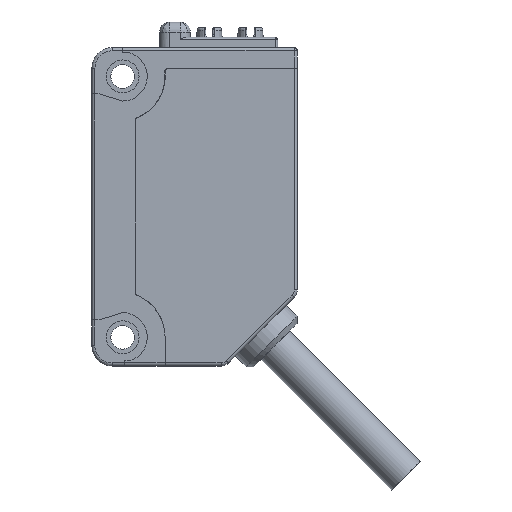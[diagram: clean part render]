
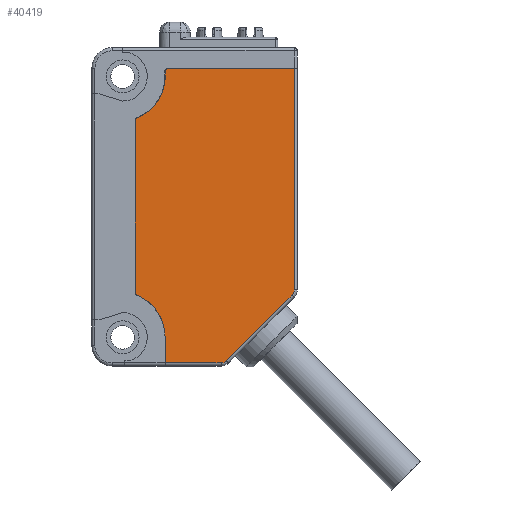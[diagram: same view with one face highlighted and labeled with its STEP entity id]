
A CAD part, left-side view. The second image highlights one B-rep face of the part: STEP entity #40419.
In plain terms, the highlighted planar face has unit normal (-1, 0, 0).
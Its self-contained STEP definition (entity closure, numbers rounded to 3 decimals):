
#299 = CARTESIAN_POINT ( 'NONE',  ( -5.5, 0.3, -7.574 ) ) ;
#1396 = CARTESIAN_POINT ( 'NONE',  ( -5.5, 0.3, -7.386 ) ) ;
#1420 = CARTESIAN_POINT ( 'NONE',  ( -5.5, 0.3, 14.163 ) ) ;
#1460 = ORIENTED_EDGE ( 'NONE', *, *, #19210, .F. ) ;
#1672 = CARTESIAN_POINT ( 'NONE',  ( -5.5, 15.763, -7.627 ) ) ;
#2088 = EDGE_CURVE ( 'NONE', #46934, #24854, #26549, .T. ) ;
#2350 = AXIS2_PLACEMENT_3D ( 'NONE', #36980, #13632, #40954 ) ;
#2915 = EDGE_CURVE ( 'NONE', #36053, #16881, #20538, .T. ) ;
#3168 = EDGE_CURVE ( 'NONE', #20669, #48385, #18238, .T. ) ;
#3519 = CIRCLE ( 'NONE', #2350, 0.3 ) ;
#3576 = CARTESIAN_POINT ( 'NONE',  ( -5.5, 12.863, 13.863 ) ) ;
#3634 =( BOUNDED_CURVE ( )  B_SPLINE_CURVE ( 3, ( #27595, #299, #39479, #16095 ),
 .UNSPECIFIED., .F., .F. ) 
 B_SPLINE_CURVE_WITH_KNOTS ( ( 4, 4 ),
 ( 0., 1. ),
 .UNSPECIFIED. ) 
 CURVE ( )  GEOMETRIC_REPRESENTATION_ITEM ( )  RATIONAL_B_SPLINE_CURVE ( ( 1., 0.949, 0.949, 1. ) ) 
 REPRESENTATION_ITEM ( '' )  );
#3695 = ORIENTED_EDGE ( 'NONE', *, *, #10447, .F. ) ;
#3869 = CARTESIAN_POINT ( 'NONE',  ( -5.5, 12.863, -14.5 ) ) ;
#3988 = DIRECTION ( 'NONE',  ( 0., 0., 1. ) ) ;
#4166 = CARTESIAN_POINT ( 'NONE',  ( -5.5, 12.863, 0. ) ) ;
#4343 = CARTESIAN_POINT ( 'NONE',  ( -5.5, 17.31, -12. ) ) ;
#4382 = VECTOR ( 'NONE', #7994, 1000. ) ;
#4819 = LINE ( 'NONE', #43002, #4382 ) ;
#4983 = EDGE_LOOP ( 'NONE', ( #42713, #45280, #7901, #29848, #33833, #6205, #49157, #19111, #3695, #39751, #49201, #1460, #5907, #40080 ) ) ;
#5907 = ORIENTED_EDGE ( 'NONE', *, *, #2915, .F. ) ;
#6043 = VERTEX_POINT ( 'NONE', #28814 ) ;
#6205 = ORIENTED_EDGE ( 'NONE', *, *, #13882, .F. ) ;
#6597 = CARTESIAN_POINT ( 'NONE',  ( -5.5, 15.763, 0. ) ) ;
#6808 = EDGE_CURVE ( 'NONE', #48385, #50196, #41079, .T. ) ;
#7397 = PLANE ( 'NONE',  #36835 ) ;
#7626 = LINE ( 'NONE', #20072, #26986 ) ;
#7676 = LINE ( 'NONE', #38496, #7856 ) ;
#7710 = VECTOR ( 'NONE', #33794, 1000. ) ;
#7856 = VECTOR ( 'NONE', #34374, 1000. ) ;
#7901 = ORIENTED_EDGE ( 'NONE', *, *, #3168, .F. ) ;
#7994 = DIRECTION ( 'NONE',  ( 0., 1., 0. ) ) ;
#8280 = DIRECTION ( 'NONE',  ( 0., 0., 1. ) ) ;
#8486 = CARTESIAN_POINT ( 'NONE',  ( -5.5, 6.919, -14.295 ) ) ;
#9802 = CARTESIAN_POINT ( 'NONE',  ( -5.5, 7.414, -14.5 ) ) ;
#10447 = EDGE_CURVE ( 'NONE', #25329, #24854, #7676, .T. ) ;
#11364 = DIRECTION ( 'NONE',  ( 0., 0., -1. ) ) ;
#11816 = CARTESIAN_POINT ( 'NONE',  ( -5.5, 15.58, -7.903 ) ) ;
#12331 = AXIS2_PLACEMENT_3D ( 'NONE', #16689, #15924, #16681 ) ;
#13632 = DIRECTION ( 'NONE',  ( 1., 0., 0. ) ) ;
#13882 = EDGE_CURVE ( 'NONE', #43723, #46098, #31746, .T. ) ;
#15287 = EDGE_CURVE ( 'NONE', #24779, #20669, #21277, .T. ) ;
#15924 = DIRECTION ( 'NONE',  ( -1., 0., 0. ) ) ;
#16095 = CARTESIAN_POINT ( 'NONE',  ( -5.5, 0.505, -7.881 ) ) ;
#16681 = DIRECTION ( 'NONE',  ( 0., 0., 1. ) ) ;
#16689 = CARTESIAN_POINT ( 'NONE',  ( -5.5, 17.2, 13.412 ) ) ;
#16881 = VERTEX_POINT ( 'NONE', #1396 ) ;
#18238 = CIRCLE ( 'NONE', #12331, 4.337 ) ;
#18978 = DIRECTION ( 'NONE',  ( 0., 0., -1. ) ) ;
#19111 = ORIENTED_EDGE ( 'NONE', *, *, #2088, .T. ) ;
#19210 = EDGE_CURVE ( 'NONE', #16881, #37676, #3634, .T. ) ;
#19748 = CARTESIAN_POINT ( 'NONE',  ( -5.5, 12.863, -12. ) ) ;
#20047 = VECTOR ( 'NONE', #39892, 1000. ) ;
#20072 = CARTESIAN_POINT ( 'NONE',  ( -5.5, 0.505, -7.881 ) ) ;
#20513 = DIRECTION ( 'NONE',  ( 0., 0., 1. ) ) ;
#20538 = LINE ( 'NONE', #40059, #20047 ) ;
#20572 = DIRECTION ( 'NONE',  ( 1., 0., 0. ) ) ;
#20617 = CARTESIAN_POINT ( 'NONE',  ( -5.5, 15.463, -7.627 ) ) ;
#20669 = VERTEX_POINT ( 'NONE', #33786 ) ;
#21277 = CIRCLE ( 'NONE', #45512, 0.3 ) ;
#21370 = AXIS2_PLACEMENT_3D ( 'NONE', #20617, #20572, #20513 ) ;
#23925 = EDGE_CURVE ( 'NONE', #36053, #6043, #4819, .T. ) ;
#24779 = VERTEX_POINT ( 'NONE', #42154 ) ;
#24854 = VERTEX_POINT ( 'NONE', #3869 ) ;
#25329 = VERTEX_POINT ( 'NONE', #26198 ) ;
#26198 = CARTESIAN_POINT ( 'NONE',  ( -5.5, 7.414, -14.5 ) ) ;
#26499 = VECTOR ( 'NONE', #18978, 1000. ) ;
#26549 = LINE ( 'NONE', #19748, #26499 ) ;
#26986 = VECTOR ( 'NONE', #31842, 1000. ) ;
#27513 = EDGE_CURVE ( 'NONE', #46934, #43723, #46471, .T. ) ;
#27595 = CARTESIAN_POINT ( 'NONE',  ( -5.5, 0.3, -7.386 ) ) ;
#28192 = EDGE_CURVE ( 'NONE', #50196, #6043, #3519, .T. ) ;
#28752 = AXIS2_PLACEMENT_3D ( 'NONE', #4343, #31545, #8280 ) ;
#28814 = CARTESIAN_POINT ( 'NONE',  ( -5.5, 12.563, 14.163 ) ) ;
#29093 = CARTESIAN_POINT ( 'NONE',  ( -5.5, 6.919, -14.295 ) ) ;
#29848 = ORIENTED_EDGE ( 'NONE', *, *, #15287, .F. ) ;
#31545 = DIRECTION ( 'NONE',  ( -1., 0., 0. ) ) ;
#31746 = CIRCLE ( 'NONE', #21370, 0.3 ) ;
#31842 = DIRECTION ( 'NONE',  ( 0., 0.707, -0.707 ) ) ;
#33033 = CARTESIAN_POINT ( 'NONE',  ( -5.5, 7.226, -14.5 ) ) ;
#33786 = CARTESIAN_POINT ( 'NONE',  ( -5.5, 15.576, 9.392 ) ) ;
#33794 = DIRECTION ( 'NONE',  ( 0., 0., 1. ) ) ;
#33833 = ORIENTED_EDGE ( 'NONE', *, *, #36732, .F. ) ;
#33868 = CARTESIAN_POINT ( 'NONE',  ( -5.5, 12.863, 13.412 ) ) ;
#34216 = EDGE_CURVE ( 'NONE', #41652, #25329, #44437, .T. ) ;
#34374 = DIRECTION ( 'NONE',  ( 0., 1., 0. ) ) ;
#34619 = DIRECTION ( 'NONE',  ( 1., 0., 0. ) ) ;
#36053 = VERTEX_POINT ( 'NONE', #1420 ) ;
#36732 = EDGE_CURVE ( 'NONE', #46098, #24779, #46858, .T. ) ;
#36835 = AXIS2_PLACEMENT_3D ( 'NONE', #50380, #34619, #11364 ) ;
#36980 = CARTESIAN_POINT ( 'NONE',  ( -5.5, 12.563, 13.863 ) ) ;
#37676 = VERTEX_POINT ( 'NONE', #40498 ) ;
#38496 = CARTESIAN_POINT ( 'NONE',  ( -5.5, 0., -14.5 ) ) ;
#38775 = FACE_OUTER_BOUND ( 'NONE', #4983, .T. ) ;
#39479 = CARTESIAN_POINT ( 'NONE',  ( -5.5, 0.372, -7.748 ) ) ;
#39751 = ORIENTED_EDGE ( 'NONE', *, *, #34216, .F. ) ;
#39892 = DIRECTION ( 'NONE',  ( 0., 0., -1. ) ) ;
#40059 = CARTESIAN_POINT ( 'NONE',  ( -5.5, 0.3, 0. ) ) ;
#40080 = ORIENTED_EDGE ( 'NONE', *, *, #23925, .T. ) ;
#40419 = ADVANCED_FACE ( 'NONE', ( #38775 ), #7397, .F. ) ;
#40498 = CARTESIAN_POINT ( 'NONE',  ( -5.5, 0.505, -7.881 ) ) ;
#40954 = DIRECTION ( 'NONE',  ( 0., 0., 1. ) ) ;
#41079 = LINE ( 'NONE', #4166, #41124 ) ;
#41124 = VECTOR ( 'NONE', #3988, 1000. ) ;
#41652 = VERTEX_POINT ( 'NONE', #8486 ) ;
#42154 = CARTESIAN_POINT ( 'NONE',  ( -5.5, 15.763, 9.113 ) ) ;
#42187 = EDGE_CURVE ( 'NONE', #37676, #41652, #7626, .T. ) ;
#42713 = ORIENTED_EDGE ( 'NONE', *, *, #28192, .F. ) ;
#43002 = CARTESIAN_POINT ( 'NONE',  ( -5.5, 13.5, 14.163 ) ) ;
#43723 = VERTEX_POINT ( 'NONE', #11816 ) ;
#44437 =( BOUNDED_CURVE ( )  B_SPLINE_CURVE ( 3, ( #29093, #48794, #33033, #9802 ),
 .UNSPECIFIED., .F., .F. ) 
 B_SPLINE_CURVE_WITH_KNOTS ( ( 4, 4 ),
 ( 0., 1. ),
 .UNSPECIFIED. ) 
 CURVE ( )  GEOMETRIC_REPRESENTATION_ITEM ( )  RATIONAL_B_SPLINE_CURVE ( ( 1., 0.949, 0.949, 1. ) ) 
 REPRESENTATION_ITEM ( '' )  );
#45280 = ORIENTED_EDGE ( 'NONE', *, *, #6808, .F. ) ;
#45512 = AXIS2_PLACEMENT_3D ( 'NONE', #47519, #47472, #47453 ) ;
#45931 = CARTESIAN_POINT ( 'NONE',  ( -5.5, 12.863, -12. ) ) ;
#46098 = VERTEX_POINT ( 'NONE', #1672 ) ;
#46471 = CIRCLE ( 'NONE', #28752, 4.447 ) ;
#46858 = LINE ( 'NONE', #6597, #7710 ) ;
#46934 = VERTEX_POINT ( 'NONE', #45931 ) ;
#47453 = DIRECTION ( 'NONE',  ( 0., 0., 1. ) ) ;
#47472 = DIRECTION ( 'NONE',  ( 1., 0., 0. ) ) ;
#47519 = CARTESIAN_POINT ( 'NONE',  ( -5.5, 15.463, 9.113 ) ) ;
#48385 = VERTEX_POINT ( 'NONE', #33868 ) ;
#48794 = CARTESIAN_POINT ( 'NONE',  ( -5.5, 7.052, -14.428 ) ) ;
#49157 = ORIENTED_EDGE ( 'NONE', *, *, #27513, .F. ) ;
#49201 = ORIENTED_EDGE ( 'NONE', *, *, #42187, .F. ) ;
#50196 = VERTEX_POINT ( 'NONE', #3576 ) ;
#50380 = CARTESIAN_POINT ( 'NONE',  ( -5.5, 0., 0. ) ) ;
